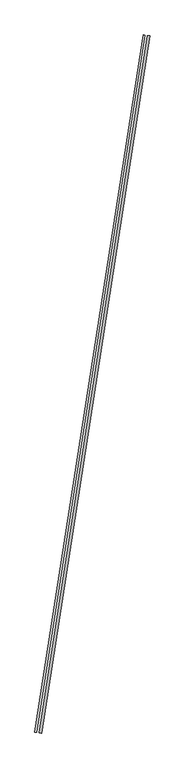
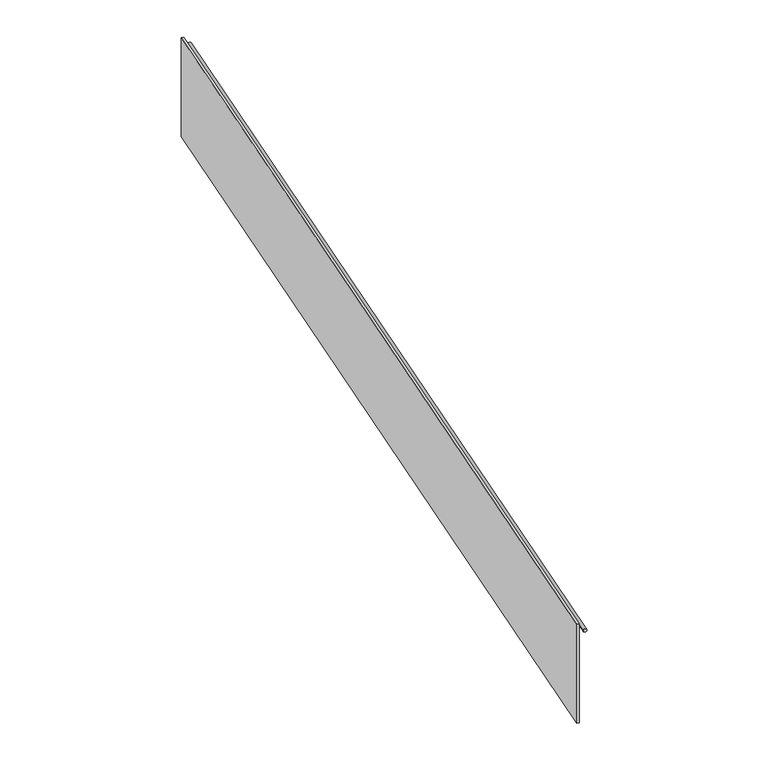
"""IFC4 building model written with IfcOpenShell, lengths in millimetres: railing geometry, Panel de vidrio - balcón."""

from ifc_helpers import new_model, si_unit, point, frame, origin, origin_2d, place, context, project, spatial, polyline, circle_curve, trimmed, segment, composite_curve, outline, extrude, source, transform, mapped, element, save


def railing_04ac7b46(model_context):
    return source(origin(), model_context, "Body", "SweptSolid", [
        extrude(outline(polyline([(-34194.1864756, -62027.932986), (-34169.4847429, -62031.783233), (-35848.9624765, -72806.6790349), (-35873.6642092, -72802.8287879), (-34194.1864756, -62027.932986)])), frame((0.0, 0.0, 2945.385397), z_axis=(0.0, 0.0, 1.0), x_axis=(1.0, 0.0, 0.0)), (0.0, 0.0, 1.0), 1200.0),
        extrude(outline(composite_curve([segment(trimmed(circle_curve(origin_2d(), 20.0), [point((20.0, 0.0))], [point((-19.9999999, 0.0))], False, "CARTESIAN"), True, "CONTINUOUS"), segment(trimmed(circle_curve(origin_2d(), 20.0), [point((-19.9999999, 0.0))], [point((20.0, 0.0))], False, "CARTESIAN"), True, "CONTINUOUS")], self_intersect=False)), frame((-35787.7946585, -72816.2132327, 4050.0), z_axis=(0.15400987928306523, 0.9880693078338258, 0.0), x_axis=(0.9880693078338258, -0.15400987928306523, 0.0)), (0.0, 0.0, 1.0), 10905.0),
    ])


if __name__ == "__main__":
    model = new_model("IFC4")
    model_context = context("Model", 3, world=origin())
    ifc_project = project(units=[si_unit("LENGTHUNIT", "METRE", prefix="MILLI")], contexts=[model_context])
    site = spatial("IfcSite", under=ifc_project)
    building = spatial("IfcBuilding", under=site)
    placement = place(None, origin())
    railing_shape = railing_04ac7b46(model_context)
    element("IfcRailing", 1, ObjectType="Panel de vidrio - balcón", at=placement, inside=building, context=model_context, shape_type="MappedRepresentation", body=[
        mapped(railing_shape, transform((0.0, 0.0, 0.0), x_axis=(1.0, 0.0, 0.0), y_axis=(0.0, 1.0, 0.0), z_axis=(0.0, 0.0, 1.0))),
    ])
    save(model, "model.ifc")
